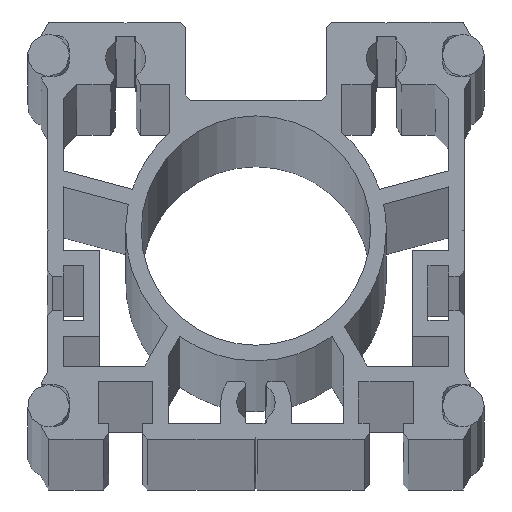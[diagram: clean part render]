
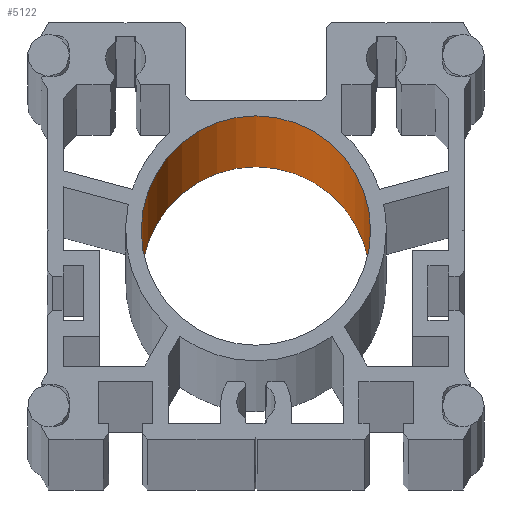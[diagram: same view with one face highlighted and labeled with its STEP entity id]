
A CAD part, top view. The second image highlights one B-rep face of the part: STEP entity #5122.
In plain terms, the highlighted cylindrical face has radius 22 mm (diameter 44 mm), a partial arc.
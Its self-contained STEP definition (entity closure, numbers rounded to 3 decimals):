
#186 = DIRECTION ( 'NONE',  ( 1., 0., 0. ) ) ;
#187 = DIRECTION ( 'NONE',  ( 0., 0., 1. ) ) ;
#188 = CARTESIAN_POINT ( 'NONE',  ( 0., 40., -2799. ) ) ;
#189 = AXIS2_PLACEMENT_3D ( 'NONE', #188, #187, #186 ) ;
#190 = CIRCLE ( 'NONE', #189, 22. ) ;
#1168 = DIRECTION ( 'NONE',  ( 1., 0., 0. ) ) ;
#1169 = DIRECTION ( 'NONE',  ( 0., 0., 1. ) ) ;
#1170 = CARTESIAN_POINT ( 'NONE',  ( 0., 40., -2799. ) ) ;
#1171 = AXIS2_PLACEMENT_3D ( 'NONE', #1170, #1169, #1168 ) ;
#1173 = CYLINDRICAL_SURFACE ( 'NONE', #1171, 22. ) ;
#1174 = FACE_OUTER_BOUND ( 'NONE', #5123, .T. ) ;
#1315 = DIRECTION ( 'NONE',  ( 1., 0., 0. ) ) ;
#1316 = DIRECTION ( 'NONE',  ( 0., 0., 1. ) ) ;
#1317 = CARTESIAN_POINT ( 'NONE',  ( 0., 40., 2799. ) ) ;
#1318 = AXIS2_PLACEMENT_3D ( 'NONE', #1317, #1316, #1315 ) ;
#1319 = CIRCLE ( 'NONE', #1318, 22. ) ;
#3060 = VERTEX_POINT ( 'NONE', #6284 ) ;
#3061 = VERTEX_POINT ( 'NONE', #6283 ) ;
#3063 = EDGE_CURVE ( 'NONE', #3060, #3228, #6282, .T. ) ;
#3228 = VERTEX_POINT ( 'NONE', #6438 ) ;
#3231 = VERTEX_POINT ( 'NONE', #6432 ) ;
#3233 = EDGE_CURVE ( 'NONE', #3061, #3231, #6431, .T. ) ;
#4467 = EDGE_CURVE ( 'NONE', #3061, #3060, #190, .T. ) ;
#5122 = ADVANCED_FACE ( 'NONE', ( #1174 ), #1173, .F. ) ;
#5123 = EDGE_LOOP ( 'NONE', ( #5124, #5125, #5126, #5127 ) ) ;
#5124 = ORIENTED_EDGE ( 'NONE', *, *, #3063, .F. ) ;
#5125 = ORIENTED_EDGE ( 'NONE', *, *, #4467, .F. ) ;
#5126 = ORIENTED_EDGE ( 'NONE', *, *, #3233, .T. ) ;
#5127 = ORIENTED_EDGE ( 'NONE', *, *, #5248, .T. ) ;
#5248 = EDGE_CURVE ( 'NONE', #3231, #3228, #1319, .T. ) ;
#6279 = DIRECTION ( 'NONE',  ( 0., 0., 1. ) ) ;
#6280 = VECTOR ( 'NONE', #6279, 1000. ) ;
#6281 = CARTESIAN_POINT ( 'NONE',  ( -22., 40., -2799. ) ) ;
#6282 = LINE ( 'NONE', #6281, #6280 ) ;
#6283 = CARTESIAN_POINT ( 'NONE',  ( 22., 40., -2799. ) ) ;
#6284 = CARTESIAN_POINT ( 'NONE',  ( -22., 40., -2799. ) ) ;
#6428 = DIRECTION ( 'NONE',  ( 0., 0., 1. ) ) ;
#6429 = VECTOR ( 'NONE', #6428, 1000. ) ;
#6430 = CARTESIAN_POINT ( 'NONE',  ( 22., 40., -2799. ) ) ;
#6431 = LINE ( 'NONE', #6430, #6429 ) ;
#6432 = CARTESIAN_POINT ( 'NONE',  ( 22., 40., 2799. ) ) ;
#6438 = CARTESIAN_POINT ( 'NONE',  ( -22., 40., 2799. ) ) ;
